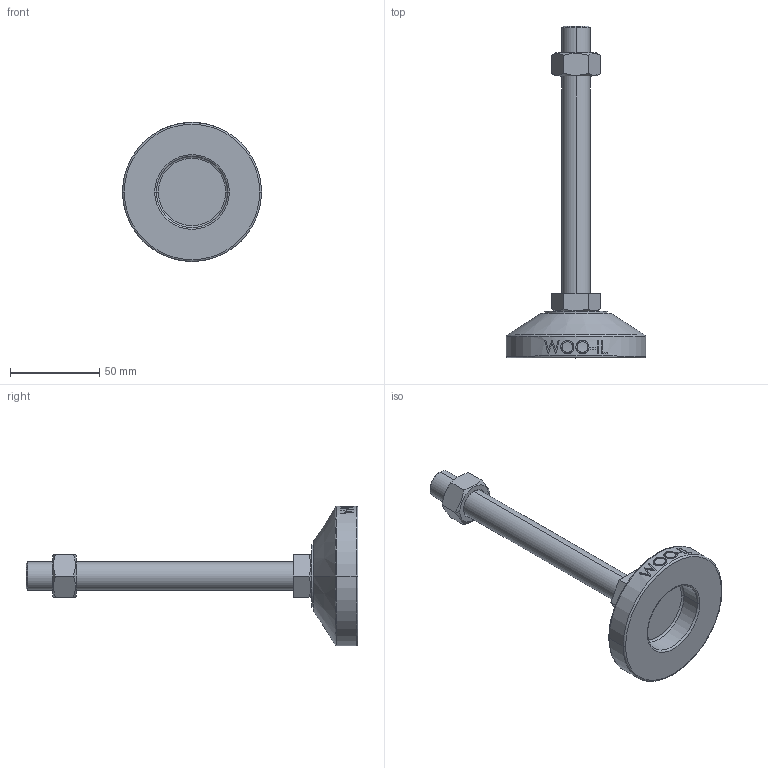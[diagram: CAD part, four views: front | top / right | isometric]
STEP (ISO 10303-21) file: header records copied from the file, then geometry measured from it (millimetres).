
FILE_DESCRIPTION (( 'STEP AP214' ), '1' );
FILE_NAME ('MF78-M16-150.step', '2021-02-03T08:20:39', ( '' ), ( '' ), 'SwSTEP 2.0', 'SolidWorks 2019', '' );
FILE_SCHEMA (( 'AUTOMOTIVE_DESIGN' ));
Length unit declared in the file: millimetre
Products named in the file (2): MF78-M16-150
Bounding box: 78 x 186 x 78 mm (x, y, z)
Volume: 118764.4 mm3; surface area: 26261.3 mm2
Topology: 3 solids, 3 shells, 106 faces, 243 edges, 154 vertices
Faces by surface type: plane 48, cylinder 18, bspline 16, cone 14, torus 10
Entity records: 4520 total; most frequent: CARTESIAN_POINT 2177, ORIENTED_EDGE 486, DIRECTION 439, EDGE_CURVE 243, AXIS2_PLACEMENT_3D 170, VERTEX_POINT 154, EDGE_LOOP 119, FACE_OUTER_BOUND 106
